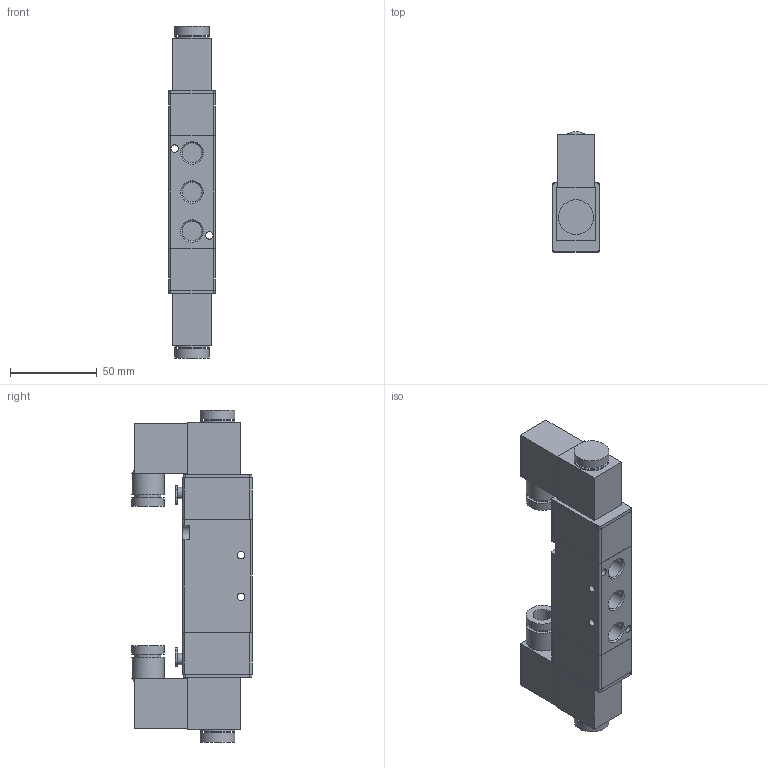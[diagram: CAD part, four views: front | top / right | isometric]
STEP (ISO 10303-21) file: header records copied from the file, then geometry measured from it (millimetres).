
FILE_DESCRIPTION( ( 'STEP AP214' ), '1' );
FILE_NAME( 'C:/Users/emc02044/Desktop/RV五通/RV5232-08E8.stp', '2026-07-31T08:06:13', ( 'License CC BY-ND 4.0' ), ( 'CADENAS' ), ' ', 'PARTsolutions', ' ' );
FILE_SCHEMA( ( 'AUTOMOTIVE_DESIGN { 1 0 10303 214 1 1 1 1 }' ) );
Length unit declared in the file: millimetre
Products named in the file (1): _RV5232-08E8
Bounding box: 27 x 69.3 x 191 mm (x, y, z)
Volume: 205163.2 mm3; surface area: 39642.6 mm2
Topology: 1 solids, 1 shells, 139 faces, 325 edges, 217 vertices
Faces by surface type: plane 79, cylinder 53, cone 7
Full cylindrical faces by diameter (mm): 4.3 x4, 6.5 x2, 10.8 x2, 11.445 x5, 15 x4, 18.6 x4, 20 x4
Entity records: 4960 total; most frequent: CARTESIAN_POINT 678, DIRECTION 678, ORIENTED_EDGE 574, EDGE_CURVE 287, AXIS2_PLACEMENT_3D 253, VERTEX_POINT 209, EDGE_LOOP 206, LINE 172
